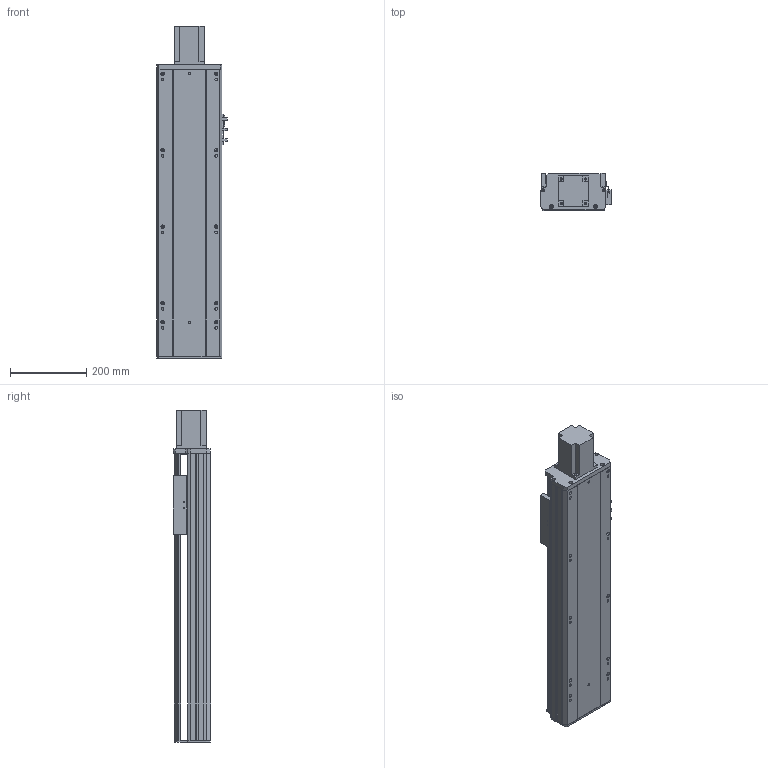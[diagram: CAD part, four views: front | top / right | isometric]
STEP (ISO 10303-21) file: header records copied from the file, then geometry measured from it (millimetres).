
FILE_DESCRIPTION (( 'STEP AP203' ), '1' );
FILE_NAME ('Y170-D10-S500-BD-P750W.STEP', '2020-01-22T03:59:20', ( '微软用户' ), ( '微软中国' ), 'SwSTEP 2.0', 'SolidWorks 2017', '' );
FILE_SCHEMA (( 'CONFIG_CONTROL_DESIGN' ));
Length unit declared in the file: millimetre
Products named in the file (10): 135-盓傅釱-FK15; 侂狟750W; Y170耜裔--準---; Y170-陔遴奻裔-BD; Y170--雄赽釱-梓--; YD-Y100-135-新外置传感挡片(通用）; Y170-D10-S500-BD-P750W; Y100-135俋离換覜ん; 170--掛极-BD; Y170-萇儂楊擘啣--
Assembly tree (11 placements, depth 2):
  Y170-D10-S500-BD-P750W
    YD-Y100-135-新外置传感挡片(通用）
    Y100-135俋离換覜ん  x3
    170--掛极-BD
    Y170-萇儂楊擘啣--
    135-盓傅釱-FK15
    侂狟750W
    Y170耜裔--準---
    Y170-陔遴奻裔-BD
    Y170--雄赽釱-梓--
Bounding box: 183.5 x 97 x 868.5 mm (x, y, z)
Volume: 3988301.8 mm3; surface area: 1275916.6 mm2
Topology: 11 solids, 11 shells, 804 faces, 2259 edges, 1496 vertices
Faces by surface type: cylinder 414, plane 388, torus 2
Entity records: 25871 total; most frequent: CARTESIAN_POINT 4539, DIRECTION 4345, ORIENTED_EDGE 4182, EDGE_CURVE 2091, AXIS2_PLACEMENT_3D 1558, VERTEX_POINT 1384, VECTOR 1229, LINE 1229
